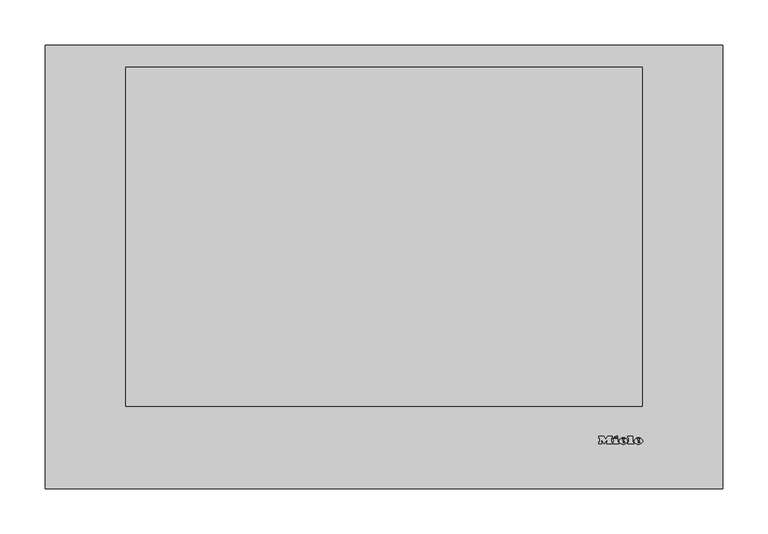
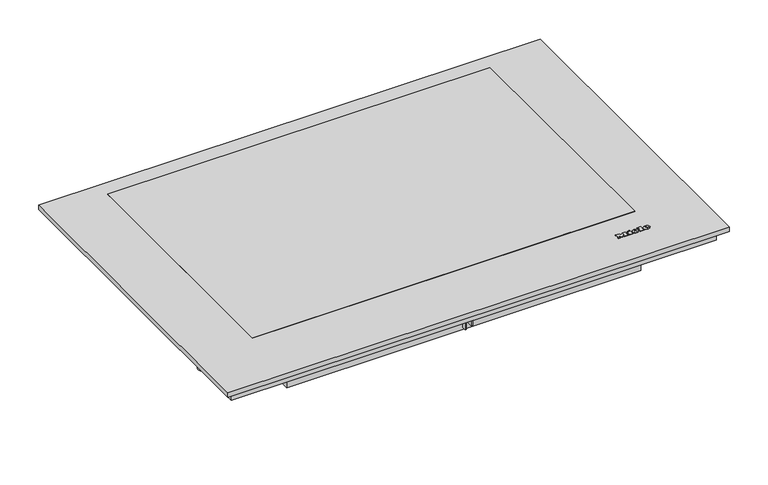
"""IFC4 building model written with IfcOpenShell, lengths in millimetres: proxy geometry, 11153560_CH_KM7617FX : 26761760_CH_11153560_KM7617FX."""

import ifcopenshell
import ifcopenshell.guid

model = None  # the IFC model being written
_history = None  # IfcOwnerHistory: only IFC2X3 demands one
_inside = {}  # id of a spatial element -> (the spatial element, [elements in it])
_under = {}  # id of a project, library or spatial element -> (it, [spatial elements below it])
_declared = {}  # id of a project -> (the project, [libraries it declares])
_typed = {}  # id of a type object -> (the type object, [elements of that type])
_made_of = {}  # id of a material, layer set ... -> (it, [elements and type objects made of it])


def new_model(schema):
    """Start an empty IFC model of exactly this schema.

    Asked for "IFC4X3", IfcOpenShell would pick the latest addendum, in which some entities
    have other attributes; the version numbers below select the first issue.
    IFC2X3 requires an IfcOwnerHistory on every rooted entity: one is made here for all.
    """
    global model, _history
    if schema == "IFC4X3":
        model = ifcopenshell.file(schema_version=(4, 3, 0, 0))
    else:
        model = ifcopenshell.file(schema=schema)
    _inside.clear()
    _under.clear()
    _declared.clear()
    _typed.clear()
    _made_of.clear()
    _history = None
    if model.schema == "IFC2X3":
        org = make("IfcOrganization", Name="unknown")
        user = make(
            "IfcPersonAndOrganization",
            ThePerson=make("IfcPerson", FamilyName="unknown"),
            TheOrganization=org,
        )
        app = make(
            "IfcApplication",
            ApplicationDeveloper=org,
            Version="unknown",
            ApplicationFullName="unknown",
            ApplicationIdentifier="unknown",
        )
        _history = make(
            "IfcOwnerHistory",
            OwningUser=user,
            OwningApplication=app,
            ChangeAction="ADDED",
            CreationDate=0,
        )
    return model


def make(cls, **values):
    """One entity of the class cls with the attributes given. An attribute that is None is left unset."""
    return model.create_entity(
        cls, **{name: value for name, value in values.items() if value is not None}
    )


def rooted(cls, **values):
    """An entity with a GlobalId (a new one), such as an element, a storey or a relation."""
    return make(cls, GlobalId=ifcopenshell.guid.new(), OwnerHistory=_history, **values)


def si_unit(unit_type, name, prefix=None):
    """IfcSIUnit, for example si_unit("LENGTHUNIT", "METRE", prefix="MILLI")."""
    return make("IfcSIUnit", UnitType=unit_type, Prefix=prefix, Name=name)


def assignment(units):
    """IfcUnitAssignment: the units of a project."""
    return None if units is None else make("IfcUnitAssignment", Units=units)


def point(xyz):
    """IfcCartesianPoint."""
    return None if xyz is None else make("IfcCartesianPoint", Coordinates=xyz)


def direction(xyz):
    """IfcDirection."""
    return None if xyz is None else make("IfcDirection", DirectionRatios=xyz)


def frame(location, z_axis=None, x_axis=None):
    """IfcAxis2Placement3D, a coordinate frame: its origin and axes. An axis left out is left unset."""
    return make(
        "IfcAxis2Placement3D",
        Location=point(location),
        Axis=direction(z_axis),
        RefDirection=direction(x_axis),
    )


def frame_2d(location, x_axis=None):
    """IfcAxis2Placement2D, a coordinate frame in the plane: its origin and x axis."""
    return make(
        "IfcAxis2Placement2D", Location=point(location), RefDirection=direction(x_axis)
    )


def origin():
    """The frame at (0, 0, 0) with its axes left unset."""
    return frame((0.0, 0.0, 0.0))


def origin_with_axes():
    """The frame at (0, 0, 0) with the z axis (0, 0, 1) and the x axis (1, 0, 0) written out."""
    return frame((0.0, 0.0, 0.0), z_axis=(0.0, 0.0, 1.0), x_axis=(1.0, 0.0, 0.0))


def place(relative_to, where):
    """IfcLocalPlacement: puts the frame where relative to a parent placement (None: the world)."""
    return make(
        "IfcLocalPlacement", PlacementRelTo=relative_to, RelativePlacement=where
    )


def context(
    kind, dimensions, precision=None, world=None, true_north=None, identifier=None
):
    """IfcGeometricRepresentationContext, for example the 3D "Model" context."""
    return make(
        "IfcGeometricRepresentationContext",
        ContextIdentifier=identifier,
        ContextType=kind,
        CoordinateSpaceDimension=dimensions,
        Precision=precision,
        WorldCoordinateSystem=world,
        TrueNorth=true_north,
    )


def project(units=None, contexts=None):
    """IfcProject with its units and contexts."""
    return rooted(
        "IfcProject",
        Name="project",
        RepresentationContexts=contexts,
        UnitsInContext=assignment(units),
    )


def spatial(cls, under=None, at=None, **own):
    """A site, building, storey or space (cls), placed at a placement, below another one or the project."""
    s = rooted(cls, ObjectPlacement=at, **own)
    if under is not None:
        _under.setdefault(under.id(), (under, []))[1].append(s)
    return s


def polyline(points):
    """IfcPolyline through the points."""
    return make("IfcPolyline", Points=[point(p) for p in points])


def circle_curve(where, radius):
    """IfcCircle in the frame where."""
    return make("IfcCircle", Position=where, Radius=radius)


def ellipse_curve(where, semi_axis1, semi_axis2):
    """IfcEllipse in the frame where."""
    return make(
        "IfcEllipse", Position=where, SemiAxis1=semi_axis1, SemiAxis2=semi_axis2
    )


def trimmed(basis, trim1, trim2, sense, master):
    """IfcTrimmedCurve: the piece of a basis curve between two trims."""
    return make(
        "IfcTrimmedCurve",
        BasisCurve=basis,
        Trim1=trim1,
        Trim2=trim2,
        SenseAgreement=sense,
        MasterRepresentation=master,
    )


def segment(curve, same_sense, transition):
    """IfcCompositeCurveSegment."""
    return make(
        "IfcCompositeCurveSegment",
        Transition=transition,
        SameSense=same_sense,
        ParentCurve=curve,
    )


def composite_curve(segments, self_intersect=None):
    """IfcCompositeCurve: segments joined end to end."""
    return make("IfcCompositeCurve", Segments=segments, SelfIntersect=self_intersect)


def outline(outer, holes=None, kind="AREA"):
    """IfcArbitraryClosedProfileDef: a profile drawn as a closed curve; with holes, ...WithVoids."""
    if holes is None:
        return make("IfcArbitraryClosedProfileDef", ProfileType=kind, OuterCurve=outer)
    return make(
        "IfcArbitraryProfileDefWithVoids",
        ProfileType=kind,
        OuterCurve=outer,
        InnerCurves=holes,
    )


def extrude(swept, where, along, depth):
    """IfcExtrudedAreaSolid: the profile swept, set in the frame where, extruded along a direction by depth."""
    return make(
        "IfcExtrudedAreaSolid",
        SweptArea=swept,
        Position=where,
        ExtrudedDirection=direction(along),
        Depth=depth,
    )


def shape(context_of_items, identifier, shape_type, items):
    """IfcShapeRepresentation: the items that make up one representation, for example the "Body"."""
    return make(
        "IfcShapeRepresentation",
        ContextOfItems=context_of_items,
        RepresentationIdentifier=identifier,
        RepresentationType=shape_type,
        Items=items,
    )


def source(mapping_origin, context_of_items, identifier, shape_type, items):
    """IfcRepresentationMap: a shape defined once, which mapped items show again and again."""
    return make(
        "IfcRepresentationMap",
        MappingOrigin=mapping_origin,
        MappedRepresentation=shape(context_of_items, identifier, shape_type, items),
    )


def transform(
    local_origin,
    x_axis=None,
    y_axis=None,
    z_axis=None,
    scale=None,
    scale2=None,
    scale3=None,
    uniform=True,
):
    """IfcCartesianTransformationOperator3D, or its non-uniform kind. x_axis, y_axis, z_axis: its Axis1, 2, 3."""
    if uniform:
        return make(
            "IfcCartesianTransformationOperator3D",
            Axis1=direction(x_axis),
            Axis2=direction(y_axis),
            LocalOrigin=point(local_origin),
            Scale=scale,
            Axis3=direction(z_axis),
        )
    return make(
        "IfcCartesianTransformationOperator3DnonUniform",
        Axis1=direction(x_axis),
        Axis2=direction(y_axis),
        LocalOrigin=point(local_origin),
        Scale=scale,
        Axis3=direction(z_axis),
        Scale2=scale2,
        Scale3=scale3,
    )


def mapped(mapping_source, mapping_target):
    """IfcMappedItem: shows the shape of a source again, moved by a transform."""
    return make(
        "IfcMappedItem", MappingSource=mapping_source, MappingTarget=mapping_target
    )


def made_of(thing, what):
    """Note that an element or type object is made of a material, layer set ...; save() writes the relation."""
    if what is not None:
        _made_of.setdefault(what.id(), (what, []))[1].append(thing)
    return thing


def element(
    cls,
    number,
    at=None,
    inside=None,
    cuts=None,
    type_object=None,
    material=None,
    context=None,
    identifier="Body",
    shape_type=None,
    held_by="IfcProductDefinitionShape",
    body=None,
    shapes=None,
    **own,
):
    """One element of the class cls, such as IfcWall. Its Tag is "e" and its number.

    at: its placement. inside: the storey or other place that contains it. cuts: it is an
    opening in that element (IfcRelVoidsElement). A single representation is given by context,
    identifier, shape_type and body (its items); several are given by shapes. held_by: the class
    of the entity that holds the representations. save() writes the other relations.
    """
    e = rooted(cls, Tag="e%d" % number, ObjectPlacement=at, **own)
    if body is not None:
        shapes = [shape(context, identifier, shape_type, body)]
    if shapes is not None:
        e.Representation = make(held_by, Representations=shapes)
    if inside is not None:
        _inside.setdefault(inside.id(), (inside, []))[1].append(e)
    if cuts is not None:
        rooted(
            "IfcRelVoidsElement", RelatingBuildingElement=cuts, RelatedOpeningElement=e
        )
    if type_object is not None:
        _typed.setdefault(type_object.id(), (type_object, []))[1].append(e)
    return made_of(e, material)


def aggregate(whole, parts):
    """IfcRelAggregates: a whole, such as a stair, and the parts it consists of."""
    return rooted("IfcRelAggregates", RelatingObject=whole, RelatedObjects=parts)


def save(model, path):
    """Write the relations noted so far, then the file.

    IfcRelAggregates (storeys below a building ...), IfcRelContainedInSpatialStructure (elements
    in a storey), IfcRelDefinesByType, IfcRelAssociatesMaterial and IfcRelDeclares: one each for
    every whole, place, type object, material and project.
    """
    for whole, parts in _under.values():
        aggregate(whole, parts)
    for where, things in _inside.values():
        rooted(
            "IfcRelContainedInSpatialStructure",
            RelatedElements=things,
            RelatingStructure=where,
        )
    for kind, things in _typed.values():
        rooted("IfcRelDefinesByType", RelatedObjects=things, RelatingType=kind)
    for what, things in _made_of.values():
        rooted("IfcRelAssociatesMaterial", RelatedObjects=things, RelatingMaterial=what)
    for by, libraries in _declared.values():
        rooted("IfcRelDeclares", RelatingContext=by, RelatedDefinitions=libraries)
    model.write(path)


def plane_surface(at):
    """IfcPlane: the flat surface through the origin of the frame at, square to its z axis."""
    return make("IfcPlane", Position=at)


def cylinder_surface(at, radius):
    """IfcCylindricalSurface: all points at the distance radius from the z axis of the frame at."""
    return make("IfcCylindricalSurface", Position=at, Radius=radius)


def revolved_surface(curve, axis_point, axis_direction):
    """IfcSurfaceOfRevolution: the curve turned about the line through axis_point along axis_direction."""
    return make(
        "IfcSurfaceOfRevolution",
        SweptCurve=make("IfcArbitraryOpenProfileDef", ProfileType="CURVE", Curve=curve),
        AxisPosition=make("IfcAxis1Placement", Location=point(axis_point), Axis=direction(axis_direction)),
    )


def extruded_surface(curve, direction_of_extrusion, depth):
    """IfcSurfaceOfLinearExtrusion: the curve pushed along a direction by depth."""
    return make(
        "IfcSurfaceOfLinearExtrusion",
        SweptCurve=make("IfcArbitraryOpenProfileDef", ProfileType="CURVE", Curve=curve),
        ExtrudedDirection=direction(direction_of_extrusion),
        Depth=depth,
    )


def advanced_brep(points, edges, surfaces, faces):
    """IfcAdvancedBrep: a solid bounded by faces that lie on surfaces and meet in shared edges.

    An edge is (start, end): straight between two places in points (the first is 0);
    or (start, end, curve); or (start, end, curve, False) where it runs against its curve.
    A face is (place in surfaces, loops), or (place, loops, False) where it looks against
    its surface's normal. A loop lists edges by number (the first is 1), with a minus sign
    where the edge is run from its end to its start. The first loop is the outer one.
    """
    corners = [point(p) for p in points]
    vertices = [make("IfcVertexPoint", VertexGeometry=c) for c in corners]
    made = []
    for start, end, *more in edges:
        made.append(
            make(
                "IfcEdgeCurve",
                EdgeStart=vertices[start],
                EdgeEnd=vertices[end],
                EdgeGeometry=more[0] if more else make("IfcPolyline", Points=[corners[start], corners[end]]),
                SameSense=more[1] if len(more) > 1 else True,
            )
        )
    hull = []
    for where, loops, *sense in faces:
        bounds = []
        for j, loop in enumerate(loops):
            ring = [make("IfcOrientedEdge", EdgeElement=made[abs(k) - 1], Orientation=k > 0) for k in loop]
            bounds.append(
                make(
                    "IfcFaceOuterBound" if j == 0 else "IfcFaceBound",
                    Bound=make("IfcEdgeLoop", EdgeList=ring),
                    Orientation=True,
                )
            )
        hull.append(make("IfcAdvancedFace", Bounds=bounds, FaceSurface=surfaces[where], SameSense=sense[0] if sense else True))
    return make("IfcAdvancedBrep", Outer=make("IfcClosedShell", CfsFaces=hull))


def specialty_equipment_da10772c(model_context):
    return source(origin(), model_context, "Body", "SolidModel", [
        advanced_brep(
        [(281.56, 51.6948833, 0.4802537), (281.56, 52.5028828, 0.4811551), (286.912, 52.5028828, 0.4811551), (277.6, 52.5028828, 0.4811551), (279.8, 49.7988845, 0.4781386), (286.776, 51.6948833, 0.4802537), (284.36, 51.6948833, 0.4802537), (282.456, 50.7988838, 0.4792542), (281.56, 53.5268821, 0.4822974), (281.56, 54.3988816, 0.4832701), (282.928, 54.3988816, 0.4832701), (282.928, 53.5268821, 0.4822974), (281.56, 51.6959988, -0.5197457), (282.456, 50.7999994, -0.5207452), (284.36, 51.6959988, -0.5197457), (286.776, 51.6959988, -0.5197457), (279.8, 49.8, -0.5218607), (277.6, 52.5039983, -0.5188443), (286.912, 52.5039983, -0.5188443), (281.56, 52.5039983, -0.5188443), (281.56, 53.5279977, -0.517702), (282.928, 53.5279977, -0.517702), (282.928, 54.3999971, -0.5167293), (281.56, 54.3999971, -0.5167293)],
        [
            (0, 1),
            (1, 2),
            (2, 3, ellipse_curve(frame((282.256, 52.5028828, 0.4811551), z_axis=(0.0, -0.0011155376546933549, 0.9999993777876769), x_axis=(-1.0, 0.0, 0.0)), 4.656, 3.848)),
            (3, 4, circle_curve(frame((280.6960436, 52.7748826, 0.4814585), z_axis=(0.0, -0.0011155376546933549, 0.9999993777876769), x_axis=(0.0, -0.9999993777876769, -0.0011155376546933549)), 3.1079688)),
            (4, 5, circle_curve(frame((282.1627936, 54.8868813, 0.4838145), z_axis=(0.0, -0.0011155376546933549, 0.9999993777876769), x_axis=(0.0, -0.9999993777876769, -0.0011155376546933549)), 5.6098607)),
            (5, 6),
            (6, 7, circle_curve(frame((282.8470588, 52.4388828, 0.4810837), z_axis=(0.0, 0.0011155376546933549, -0.9999993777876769), x_axis=(0.0, -0.9999993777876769, -0.0011155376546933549)), 1.6859795)),
            (7, 0, circle_curve(frame((282.456, 51.6948833, 0.4802537), z_axis=(0.0, 0.0011155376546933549, -0.9999993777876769), x_axis=(0.0, -0.9999993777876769, -0.0011155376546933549)), 0.896)),
            (8, 9),
            (9, 10, circle_curve(frame((282.244, 54.3988816, 0.4832701), z_axis=(0.0, 0.0011155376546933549, -0.9999993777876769), x_axis=(0.0, -0.9999993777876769, -0.0011155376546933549)), 0.684)),
            (10, 11),
            (11, 8),
            (12, 13, circle_curve(frame((282.456, 51.6959988, -0.5197457), z_axis=(0.0, -0.0011155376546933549, 0.9999993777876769), x_axis=(0.0, -0.9999993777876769, -0.0011155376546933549)), 0.896)),
            (13, 14, circle_curve(frame((282.8470588, 52.4399984, -0.5189157), z_axis=(0.0, -0.0011155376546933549, 0.9999993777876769), x_axis=(0.0, -0.9999993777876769, -0.0011155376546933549)), 1.6859795)),
            (14, 15),
            (15, 16, circle_curve(frame((282.1627936, 54.8879968, -0.5161849), z_axis=(0.0, 0.0011155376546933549, -0.9999993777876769), x_axis=(0.0, -0.9999993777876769, -0.0011155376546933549)), 5.6098607)),
            (16, 17, circle_curve(frame((280.6960436, 52.7759981, -0.5185409), z_axis=(0.0, 0.0011155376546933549, -0.9999993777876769), x_axis=(0.0, -0.9999993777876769, -0.0011155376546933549)), 3.1079688)),
            (17, 18, ellipse_curve(frame((282.256, 52.5039983, -0.5188443), z_axis=(0.0, 0.0011155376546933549, -0.9999993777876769), x_axis=(-1.0, 0.0, 0.0)), 4.656, 3.848)),
            (18, 19),
            (19, 12),
            (20, 21),
            (21, 22),
            (22, 23, circle_curve(frame((282.244, 54.3999971, -0.5167293), z_axis=(0.0, -0.0011155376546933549, 0.9999993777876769), x_axis=(0.0, -0.9999993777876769, -0.0011155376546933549)), 0.684)),
            (23, 20),
            (0, 12),
            (19, 1),
            (18, 2),
            (5, 15),
            (14, 6),
            (17, 3),
            (13, 7),
            (16, 4),
            (8, 20),
            (23, 9),
            (22, 10),
            (21, 11),
        ],
        [
            plane_surface(frame((281.56, 52.5028828, 0.4811551), z_axis=(0.0, -0.0011155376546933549, 0.9999993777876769), x_axis=(0.0, 0.9999993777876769, 0.0011155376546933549))),
            plane_surface(frame((281.56, 52.5039983, -0.5188443), z_axis=(0.0, 0.0011155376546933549, -0.9999993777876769), x_axis=(0.0, -0.9999993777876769, -0.0011155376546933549))),
            plane_surface(frame((281.56, 51.6948833, 0.4802537), z_axis=(1.0000000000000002, 0.0, 0.0), x_axis=(0.0, 0.001115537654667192, -0.999999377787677))),
            plane_surface(frame((281.56, 52.5028828, 0.4811551), z_axis=(0.0, -0.999999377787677, -0.001115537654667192), x_axis=(0.0, 0.001115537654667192, -0.999999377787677))),
            plane_surface(frame((286.776, 51.6948833, 0.4802537), z_axis=(0.0, 0.999999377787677, 0.001115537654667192), x_axis=(0.0, 0.001115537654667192, -0.999999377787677))),
            extruded_surface(trimmed(ellipse_curve(frame((282.256, 52.5051139, -1.5188437), z_axis=(0.0, -0.0011155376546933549, 0.9999993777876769), x_axis=(-1.0, 0.0, 0.0)), 4.656, 3.848), [point((286.912, 52.5051139, -1.5188437))], [point((277.6, 52.5051139, -1.5188437))], True, "CARTESIAN"), (0.0, -0.001115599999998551, 0.9999993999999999), 1.0000000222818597),
            revolved_surface(polyline([(282.8470588, 50.75401994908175, -0.5207965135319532), (282.8470588, 50.75290441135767, 0.47920292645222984)]), (282.8470588, 52.4399984, -0.5189157), (0.0, 0.0011155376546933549, -0.9999993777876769)),
            revolved_surface(polyline([(282.456, 50.79999935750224, -0.5207452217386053), (282.456, 50.79888381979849, 0.47925420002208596)]), (282.456, 51.6959988, -0.5197457), (0.0, 0.0011155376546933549, -0.9999993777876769)),
            cylinder_surface(frame((280.6960436, 52.7759981, -0.5185409), z_axis=(0.0, -0.0011155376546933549, 0.9999993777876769), x_axis=(0.0, -0.9999993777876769, -0.0011155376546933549)), 3.1079688),
            cylinder_surface(frame((282.1627936, 54.8879968, -0.5161849), z_axis=(0.0, -0.0011155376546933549, 0.9999993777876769), x_axis=(0.0, -0.9999993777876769, -0.0011155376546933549)), 5.6098607),
            plane_surface(frame((281.56, 53.5268821, 0.4822974), z_axis=(1.0000000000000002, 0.0, 0.0), x_axis=(0.0, 0.001115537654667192, -0.999999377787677))),
            revolved_surface(polyline([(282.244, 53.71599752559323, -0.5174923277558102), (282.244, 53.714881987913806, 0.48250707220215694)]), (282.244, 54.3999971, -0.5167293), (0.0, 0.0011155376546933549, -0.9999993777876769)),
            plane_surface(frame((282.928, 54.3988816, 0.4832701), z_axis=(-1.0000000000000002, 0.0, 0.0), x_axis=(0.0, 0.001115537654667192, -0.999999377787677))),
            plane_surface(frame((282.928, 53.5268821, 0.4822974), z_axis=(0.0, 0.999999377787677, 0.001115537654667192), x_axis=(0.0, 0.001115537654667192, -0.999999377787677))),
        ],
        [
            (0, [[1, 2, 3, 4, 5, 6, 7, 8], [9, 10, 11, 12]]),
            (1, [[13, 14, 15, 16, 17, 18, 19, 20], [21, 22, 23, 24]]),
            (2, [[-1, 25, -20, 26]]),
            (3, [[-2, -26, -19, 27]]),
            (4, [[-6, 28, -15, 29]]),
            (5, [[-3, -27, -18, 30]]),
            (6, [[-7, -29, -14, 31]]),
            (7, [[-8, -31, -13, -25]]),
            (8, [[-4, -30, -17, 32]]),
            (9, [[-5, -32, -16, -28]]),
            (10, [[-9, 33, -24, 34]]),
            (11, [[-10, -34, -23, 35]]),
            (12, [[-11, -35, -22, 36]]),
            (13, [[-12, -36, -21, -33]]),
        ],
    ),
        advanced_brep(
        [(264.864, 51.6948833, 0.4802537), (264.864, 52.5028828, 0.4811551), (270.216, 52.5028828, 0.4811551), (260.904, 52.5028828, 0.4811551), (263.104, 49.7988845, 0.4781386), (270.08, 51.6948833, 0.4802537), (267.664, 51.6948833, 0.4802537), (265.76, 50.7988838, 0.4792542), (264.864, 53.5268821, 0.4822974), (264.864, 54.3988816, 0.4832701), (266.232, 54.3988816, 0.4832701), (266.232, 53.5268821, 0.4822974), (264.864, 51.6959988, -0.5197457), (265.76, 50.7999994, -0.5207452), (267.664, 51.6959988, -0.5197457), (270.08, 51.6959988, -0.5197457), (263.104, 49.8, -0.5218607), (260.904, 52.5039983, -0.5188443), (270.216, 52.5039983, -0.5188443), (264.864, 52.5039983, -0.5188443), (264.864, 53.5279977, -0.517702), (266.232, 53.5279977, -0.517702), (266.232, 54.3999971, -0.5167293), (264.864, 54.3999971, -0.5167293)],
        [
            (0, 1),
            (1, 2),
            (2, 3, ellipse_curve(frame((265.56, 52.5028828, 0.4811551), z_axis=(0.0, -0.0011155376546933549, 0.9999993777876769), x_axis=(-1.0, 0.0, 0.0)), 4.656, 3.848)),
            (3, 4, circle_curve(frame((264.0000436, 52.7748826, 0.4814585), z_axis=(0.0, -0.0011155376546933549, 0.9999993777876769), x_axis=(0.0, -0.9999993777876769, -0.0011155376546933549)), 3.1079688)),
            (4, 5, circle_curve(frame((265.4667936, 54.8868813, 0.4838145), z_axis=(0.0, -0.0011155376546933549, 0.9999993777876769), x_axis=(0.0, -0.9999993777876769, -0.0011155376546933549)), 5.6098607)),
            (5, 6),
            (6, 7, circle_curve(frame((266.1510588, 52.4388828, 0.4810837), z_axis=(0.0, 0.0011155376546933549, -0.9999993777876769), x_axis=(0.0, -0.9999993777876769, -0.0011155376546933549)), 1.6859795)),
            (7, 0, circle_curve(frame((265.76, 51.6948833, 0.4802537), z_axis=(0.0, 0.0011155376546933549, -0.9999993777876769), x_axis=(0.0, -0.9999993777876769, -0.0011155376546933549)), 0.896)),
            (8, 9),
            (9, 10, circle_curve(frame((265.548, 54.3988816, 0.4832701), z_axis=(0.0, 0.0011155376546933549, -0.9999993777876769), x_axis=(0.0, -0.9999993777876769, -0.0011155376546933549)), 0.684)),
            (10, 11),
            (11, 8),
            (12, 13, circle_curve(frame((265.76, 51.6959988, -0.5197457), z_axis=(0.0, -0.0011155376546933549, 0.9999993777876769), x_axis=(0.0, -0.9999993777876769, -0.0011155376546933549)), 0.896)),
            (13, 14, circle_curve(frame((266.1510588, 52.4399984, -0.5189157), z_axis=(0.0, -0.0011155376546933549, 0.9999993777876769), x_axis=(0.0, -0.9999993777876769, -0.0011155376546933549)), 1.6859795)),
            (14, 15),
            (15, 16, circle_curve(frame((265.4667936, 54.8879968, -0.5161849), z_axis=(0.0, 0.0011155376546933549, -0.9999993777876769), x_axis=(0.0, -0.9999993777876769, -0.0011155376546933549)), 5.6098607)),
            (16, 17, circle_curve(frame((264.0000436, 52.7759981, -0.5185409), z_axis=(0.0, 0.0011155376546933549, -0.9999993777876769), x_axis=(0.0, -0.9999993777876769, -0.0011155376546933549)), 3.1079688)),
            (17, 18, ellipse_curve(frame((265.56, 52.5039983, -0.5188443), z_axis=(0.0, 0.0011155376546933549, -0.9999993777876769), x_axis=(-1.0, 0.0, 0.0)), 4.656, 3.848)),
            (18, 19),
            (19, 12),
            (20, 21),
            (21, 22),
            (22, 23, circle_curve(frame((265.548, 54.3999971, -0.5167293), z_axis=(0.0, -0.0011155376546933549, 0.9999993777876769), x_axis=(0.0, -0.9999993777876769, -0.0011155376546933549)), 0.684)),
            (23, 20),
            (0, 12),
            (19, 1),
            (18, 2),
            (5, 15),
            (14, 6),
            (17, 3),
            (13, 7),
            (16, 4),
            (8, 20),
            (23, 9),
            (22, 10),
            (21, 11),
        ],
        [
            plane_surface(frame((264.864, 52.5028828, 0.4811551), z_axis=(0.0, -0.0011155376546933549, 0.9999993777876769), x_axis=(0.0, 0.9999993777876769, 0.0011155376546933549))),
            plane_surface(frame((264.864, 52.5039983, -0.5188443), z_axis=(0.0, 0.0011155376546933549, -0.9999993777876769), x_axis=(0.0, -0.9999993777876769, -0.0011155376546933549))),
            plane_surface(frame((264.864, 51.6948833, 0.4802537), z_axis=(1.0000000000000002, 0.0, 0.0), x_axis=(0.0, 0.001115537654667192, -0.999999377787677))),
            plane_surface(frame((264.864, 52.5028828, 0.4811551), z_axis=(0.0, -0.999999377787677, -0.001115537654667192), x_axis=(0.0, 0.001115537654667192, -0.999999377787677))),
            plane_surface(frame((270.08, 51.6948833, 0.4802537), z_axis=(0.0, 0.999999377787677, 0.001115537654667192), x_axis=(0.0, 0.001115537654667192, -0.999999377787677))),
            extruded_surface(trimmed(ellipse_curve(frame((265.56, 52.5051139, -1.5188437), z_axis=(0.0, -0.0011155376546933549, 0.9999993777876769), x_axis=(-1.0, 0.0, 0.0)), 4.656, 3.848), [point((270.216, 52.5051139, -1.5188437))], [point((260.904, 52.5051139, -1.5188437))], True, "CARTESIAN"), (0.0, -0.001115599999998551, 0.9999993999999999), 1.0000000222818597),
            revolved_surface(polyline([(266.1510588, 50.75401994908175, -0.5207965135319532), (266.1510588, 50.75290441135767, 0.47920292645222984)]), (266.1510588, 52.4399984, -0.5189157), (0.0, 0.0011155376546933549, -0.9999993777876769)),
            revolved_surface(polyline([(265.76, 50.79999935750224, -0.5207452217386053), (265.76, 50.79888381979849, 0.47925420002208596)]), (265.76, 51.6959988, -0.5197457), (0.0, 0.0011155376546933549, -0.9999993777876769)),
            cylinder_surface(frame((264.0000436, 52.7759981, -0.5185409), z_axis=(0.0, -0.0011155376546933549, 0.9999993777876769), x_axis=(0.0, -0.9999993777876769, -0.0011155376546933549)), 3.1079688),
            cylinder_surface(frame((265.4667936, 54.8879968, -0.5161849), z_axis=(0.0, -0.0011155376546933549, 0.9999993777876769), x_axis=(0.0, -0.9999993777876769, -0.0011155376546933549)), 5.6098607),
            plane_surface(frame((264.864, 53.5268821, 0.4822974), z_axis=(1.0000000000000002, 0.0, 0.0), x_axis=(0.0, 0.001115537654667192, -0.999999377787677))),
            revolved_surface(polyline([(265.548, 53.71599752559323, -0.5174923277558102), (265.548, 53.714881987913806, 0.48250707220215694)]), (265.548, 54.3999971, -0.5167293), (0.0, 0.0011155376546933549, -0.9999993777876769)),
            plane_surface(frame((266.232, 54.3988816, 0.4832701), z_axis=(-1.0000000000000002, 0.0, 0.0), x_axis=(0.0, 0.001115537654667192, -0.999999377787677))),
            plane_surface(frame((266.232, 53.5268821, 0.4822974), z_axis=(0.0, 0.999999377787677, 0.001115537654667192), x_axis=(0.0, 0.001115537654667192, -0.999999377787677))),
        ],
        [
            (0, [[1, 2, 3, 4, 5, 6, 7, 8], [9, 10, 11, 12]]),
            (1, [[13, 14, 15, 16, 17, 18, 19, 20], [21, 22, 23, 24]]),
            (2, [[-1, 25, -20, 26]]),
            (3, [[-2, -26, -19, 27]]),
            (4, [[-6, 28, -15, 29]]),
            (5, [[-3, -27, -18, 30]]),
            (6, [[-7, -29, -14, 31]]),
            (7, [[-8, -31, -13, -25]]),
            (8, [[-4, -30, -17, 32]]),
            (9, [[-5, -32, -16, -28]]),
            (10, [[-9, 33, -24, 34]]),
            (11, [[-10, -34, -23, 35]]),
            (12, [[-11, -35, -22, 36]]),
            (13, [[-12, -36, -21, -33]]),
        ],
    ),
        extrude(outline(polyline([(0.0, 0.0), (-0.0109086, -2.9993294), (-1.4390415, -2.9920868), (-1.4315307, 0.0), (0.0, 0.0)])), frame((256.12, 57.3279953, -0.513463), z_axis=(0.0, -0.001115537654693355, 0.999999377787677), x_axis=(-0.4247202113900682, 0.9053240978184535, 0.0010099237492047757)), (0.0, 0.0, 1.0), 1.0),
        extrude(outline(polyline([(-0.4933908, 2.4141097), (-2.7800844, -2.4601583), (-7.0459741, -0.4588767), (-7.4401145, -1.299018), (-8.6568709, -0.728194), (-5.9760369, 4.9862153), (-4.7592805, 4.4153913), (-5.1636142, 3.5535222), (-2.1941493, 2.1604399), (-1.7898157, 3.022309), (-0.4933908, 2.4141097)])), frame((256.12, 57.3279953, -0.513463), z_axis=(0.0, -0.001115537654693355, 0.999999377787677), x_axis=(-0.4247202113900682, 0.9053240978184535, 0.0010099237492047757)), (0.0, 0.0, 1.0), 1.0),
        extrude(outline(polyline([(0.0, 0.0), (0.0, -1.304), (-5.504, -1.304), (-5.504, 5.3519999), (-6.488, 5.3519999), (-6.488, 6.696), (0.0, 6.696), (0.0, 5.3519999), (-0.96, 5.3519999), (-0.96, 0.0), (0.0, 0.0)])), frame((270.664, 56.4959958, -0.5143911), z_axis=(0.0, -0.0011155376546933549, 0.9999993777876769), x_axis=(-1.0, 0.0, 0.0)), (0.0, 0.0, 1.0), 1.0),
        extrude(outline(polyline([(0.0, 0.0), (0.0, -1.304), (-5.576, -1.304), (-7.92, 1.696), (-10.256, -1.304), (-15.128, -1.304), (-15.128, 0.0), (-14.112, 0.0), (-14.112, 5.3519999), (-15.128, 5.3519999), (-15.128, 6.696), (-8.744, 6.696), (-8.744, 5.3519999), (-9.728, 5.3519999), (-9.728, 1.8807777), (-6.136, 6.696), (-2.56, 1.9488752), (-2.56, 5.3519999), (-3.52, 5.3519999), (-3.52, 6.696), (0.0, 6.696), (0.0, 5.3519999), (-0.968, 5.3519999), (-0.968, 0.0), (0.0, 0.0)])), frame((238.2, 56.4959958, -0.5143911), z_axis=(0.0, -0.0011155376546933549, 0.9999993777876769), x_axis=(-1.0, 0.0, 0.0)), (0.0, 0.0, 1.0), 1.0),
        extrude(outline(polyline([(210.7772603, 440.0), (203.4, 440.0), (203.4, 441.2557039), (209.5215564, 441.2557039), (209.5215564, 444.5519266), (203.870889, 444.5519266), (203.870889, 445.8076304), (209.5215564, 445.8076304), (209.5215564, 448.7899271), (203.556963, 448.7899271), (203.556963, 450.045631), (210.7772603, 450.045631), (210.7772603, 440.0)])), frame((0.0, 0.0, -84.5), z_axis=(0.0, 0.0, 1.0), x_axis=(1.0, 0.0, 0.0)), (0.0, 0.0, 1.0), 1.0),
        extrude(outline(polyline([(201.5164442, 440.0), (195.2379248, 440.0), (195.2379248, 441.2557039), (200.2607403, 441.2557039), (200.2607403, 450.045631), (201.5164442, 450.045631), (201.5164442, 440.0)])), frame((0.0, 0.0, -84.5), z_axis=(0.0, 0.0, 1.0), x_axis=(1.0, 0.0, 0.0)), (0.0, 0.0, 1.0), 1.0),
        extrude(outline(polyline([(16.0, -34.0), (16.0, -23.8), (38.5, -23.8), (38.5, -50.0), (32.0, -50.0), (32.0, -34.0), (16.0, -34.0)])), frame((-2.0, 0.0, 0.0), z_axis=(1.0, 0.0, 0.0), x_axis=(0.0, 1.0, 0.0)), (0.0, 0.0, 1.0), 2.0),
        extrude(outline(polyline([(460.0, -34.0), (460.0, -50.0), (458.5, -50.0), (458.5, -23.8), (476.0, -23.8), (476.0, -34.0), (460.0, -34.0)])), frame((-2.0, 0.0, 0.0), z_axis=(1.0, 0.0, 0.0), x_axis=(0.0, 1.0, 0.0)), (0.0, 0.0, 1.0), 2.0),
        extrude(outline(polyline([(265.5, 458.5), (265.5, 38.5), (-265.5, 38.5), (-265.5, 458.5), (265.5, 458.5)])), frame((0.0, 0.0, -53.5), z_axis=(0.0, 0.0, 1.0), x_axis=(1.0, 0.0, 0.0)), (0.0, 0.0, 1.0), 29.7),
        extrude(outline(polyline([(376.0, 492.0), (376.0, 0.0), (-376.0, 0.0), (-376.0, 492.0), (376.0, 492.0)])), frame((0.0, 0.0, -7.0), z_axis=(0.0, 0.0, 1.0), x_axis=(1.0, 0.0, 0.0)), (0.0, 0.0, 1.0), 7.0),
        extrude(outline(polyline([(363.5, 479.5), (363.5, 12.5), (-363.5, 12.5), (-363.5, 479.5), (363.5, 479.5)])), frame((0.0, 0.0, -23.8), z_axis=(0.0, 0.0, 1.0), x_axis=(1.0, 0.0, 0.0)), (0.0, 0.0, 1.0), 16.8),
        extrude(outline(composite_curve([segment(trimmed(circle_curve(frame_2d((203.4, 445.0)), 7.5), [point((203.4, 452.5))], [point((203.4, 437.5))], False, "CARTESIAN"), True, "CONTINUOUS"), segment(trimmed(circle_curve(frame_2d((203.4, 445.0)), 7.5), [point((203.4, 437.5))], [point((203.4, 452.5))], False, "CARTESIAN"), True, "CONTINUOUS")], self_intersect=False)), frame((0.0, 0.0, -83.5), z_axis=(0.0, 0.0, 1.0), x_axis=(1.0, 0.0, 0.0)), (0.0, 0.0, 1.0), 30.0),
        extrude(outline(polyline([(286.5, 467.5), (286.5, 91.5), (-286.5, 91.5), (-286.5, 467.5), (286.5, 467.5)])), origin_with_axes(), (0.0, 0.0, 1.0), 1.0),
        extrude(outline(composite_curve([segment(trimmed(circle_curve(frame_2d((-355.0, 100.3)), 8.0), [point((-355.0, 108.3))], [point((-355.0, 92.3))], False, "CARTESIAN"), True, "CONTINUOUS"), segment(trimmed(circle_curve(frame_2d((-355.0, 100.3)), 8.0), [point((-355.0, 92.3))], [point((-355.0, 108.3))], False, "CARTESIAN"), True, "CONTINUOUS")], self_intersect=False)), frame((0.0, 0.0, -28.0), z_axis=(0.0, 0.0, 1.0), x_axis=(1.0, 0.0, 0.0)), (0.0, 0.0, 1.0), 4.2),
        extrude(outline(composite_curve([segment(trimmed(circle_curve(frame_2d((355.0, 391.7)), 8.0), [point((355.0, 399.7))], [point((355.0, 383.7))], False, "CARTESIAN"), True, "CONTINUOUS"), segment(trimmed(circle_curve(frame_2d((355.0, 391.7)), 8.0), [point((355.0, 383.7))], [point((355.0, 399.7))], False, "CARTESIAN"), True, "CONTINUOUS")], self_intersect=False)), frame((0.0, 0.0, -28.0), z_axis=(0.0, 0.0, 1.0), x_axis=(1.0, 0.0, 0.0)), (0.0, 0.0, 1.0), 4.2),
    ])


if __name__ == "__main__":
    model = new_model("IFC4")
    model_context = context("Model", 3, world=origin())
    ifc_project = project(units=[si_unit("LENGTHUNIT", "METRE", prefix="MILLI")], contexts=[model_context])
    site = spatial("IfcSite", under=ifc_project)
    building = spatial("IfcBuilding", under=site)
    placement = place(None, origin())
    specialty_equipment_shape = specialty_equipment_da10772c(model_context)
    element("IfcBuildingElementProxy", 1, Name="11153560_CH_KM7617FX : 26761760_CH_11153560_KM7617FX", ObjectType="11153560_CH_KM7617FX : 26761760_CH_11153560_KM7617FX", at=placement, inside=building, context=model_context, shape_type="MappedRepresentation", body=[
        mapped(specialty_equipment_shape, transform((0.0, 0.0, 0.0), x_axis=(1.0, 0.0, 0.0), y_axis=(0.0, 1.0, 0.0), z_axis=(0.0, 0.0, 1.0))),
    ])
    save(model, "model.ifc")
